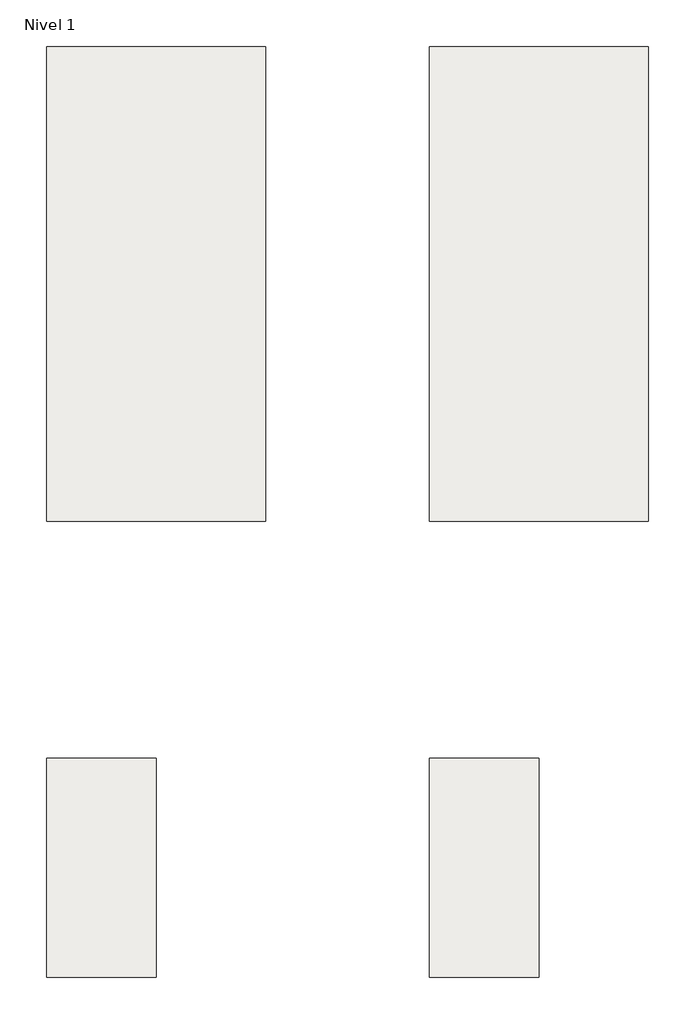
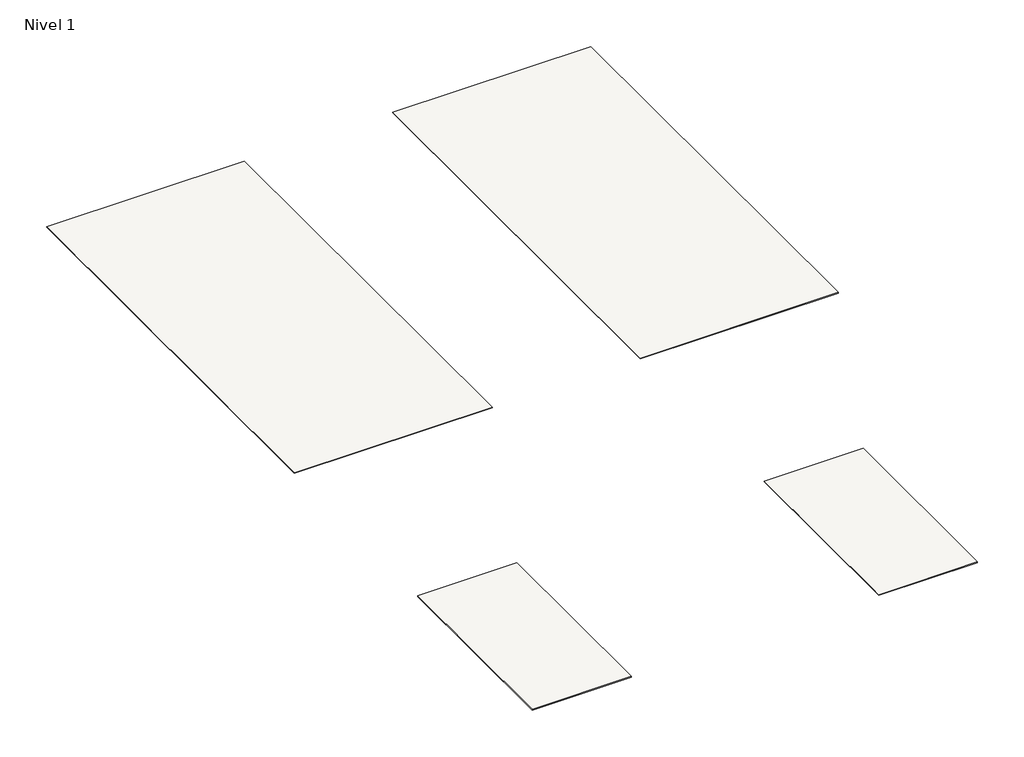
# One storey: 4 slabs.
"""IFC4 building model written with IfcOpenShell, lengths in millimetres."""

from ifc_helpers import new_model, si_unit, frame, origin, place, context, project, spatial, polyline, outline, extrude, element, save

model = new_model("IFC4")

# Units and contexts
model_context = context("Model", 3, world=origin())
ifc_project = project(units=[si_unit("LENGTHUNIT", "METRE", prefix="MILLI")], contexts=[model_context])

# Site, building, storey
site = spatial("IfcSite", under=ifc_project)
building = spatial("IfcBuilding", under=site)
storey = spatial("IfcBuildingStorey", under=building, Name="Nivel 1", Elevation=0.0)

# Slabs
placement = place(None, origin())
element("IfcSlab", 1, ObjectType="Carrara 120X260 3,5", at=placement, inside=storey, context=model_context, shape_type="SweptSolid", body=[
    extrude(outline(polyline([(19500.0, -900.0), (20700.0, -900.0), (20700.0, -3500.0), (19500.0, -3500.0), (19500.0, -900.0)])), frame((0.0, 0.0, -3.5), z_axis=(0.0, 0.0, 1.0), x_axis=(1.0, 0.0, 0.0)), (0.0, 0.0, 1.0), 3.5),
])
element("IfcSlab", 2, ObjectType="Carrara 60X120 5,6", at=placement, inside=storey, context=model_context, shape_type="SweptSolid", body=[
    extrude(outline(polyline([(19500.0, -4800.0), (20100.0, -4800.0), (20100.0, -6000.0), (19500.0, -6000.0), (19500.0, -4800.0)])), frame((0.0, 0.0, -5.6), z_axis=(0.0, 0.0, 1.0), x_axis=(1.0, 0.0, 0.0)), (0.0, 0.0, 1.0), 5.6),
])
element("IfcSlab", 3, ObjectType="Carrara Pulido 120X260 5,6", at=placement, inside=storey, context=model_context, shape_type="SweptSolid", body=[
    extrude(outline(polyline([(21600.0, -900.0), (22800.0, -900.0), (22800.0, -3500.0), (21600.0, -3500.0), (21600.0, -900.0)])), frame((0.0, 0.0, -5.6), z_axis=(0.0, 0.0, 1.0), x_axis=(1.0, 0.0, 0.0)), (0.0, 0.0, 1.0), 5.6),
])
element("IfcSlab", 4, ObjectType="Carrara Pulido 60X120 5,6", at=placement, inside=storey, context=model_context, shape_type="SweptSolid", body=[
    extrude(outline(polyline([(21600.0, -4800.0), (22200.0, -4800.0), (22200.0, -6000.0), (21600.0, -6000.0), (21600.0, -4800.0)])), frame((0.0, 0.0, -5.6), z_axis=(0.0, 0.0, 1.0), x_axis=(1.0, 0.0, 0.0)), (0.0, 0.0, 1.0), 5.6),
])

save(model, "model.ifc")
